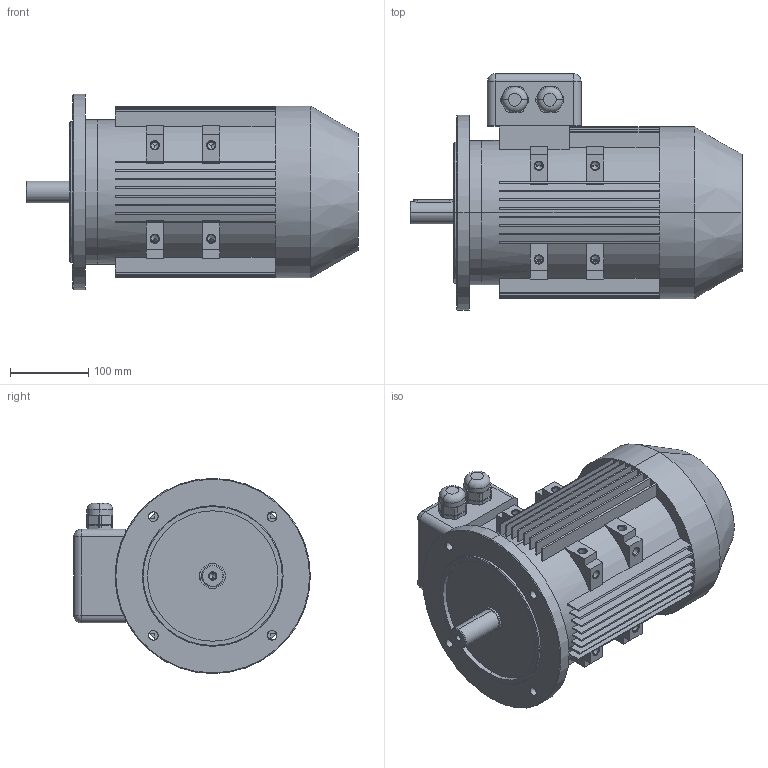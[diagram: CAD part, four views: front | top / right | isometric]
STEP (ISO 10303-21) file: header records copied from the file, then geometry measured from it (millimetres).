
FILE_DESCRIPTION (( 'STEP AP203' ), '1' );
FILE_NAME ('IE1_112M-250-28(B5).STEP', '2023-09-06T12:20:43', ( '' ), ( '' ), 'SwSTEP 2.0', 'SolidWorks 2022', '' );
FILE_SCHEMA (( 'CONFIG_CONTROL_DESIGN' ));
Length unit declared in the file: millimetre
Products named in the file (1): IE1_112M-250-28(B5)
Bounding box: 425 x 303 x 250 mm (x, y, z)
Volume: 12197312 mm3; surface area: 630921.8 mm2
Topology: 1 solids, 1 shells, 462 faces, 1244 edges, 789 vertices
Faces by surface type: plane 273, cylinder 111, cone 70, torus 4, sphere 4
Entity records: 14621 total; most frequent: CARTESIAN_POINT 2690, DIRECTION 2562, ORIENTED_EDGE 2460, EDGE_CURVE 1230, AXIS2_PLACEMENT_3D 893, VERTEX_POINT 789, LINE 776, VECTOR 776
